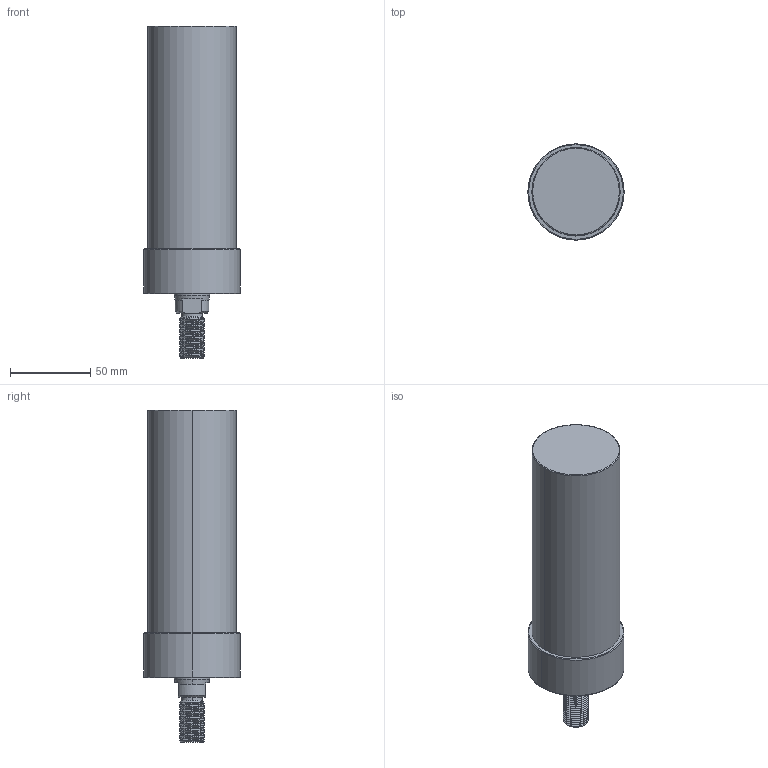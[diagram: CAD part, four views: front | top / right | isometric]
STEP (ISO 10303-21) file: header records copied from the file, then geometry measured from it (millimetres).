
FILE_DESCRIPTION (( 'STEP AP203' ), '1' );
FILE_NAME ('CLLU-055GT-110.STEP', '2020-01-16T01:54:26', ( '' ), ( '' ), 'SwSTEP 2.0', 'SolidWorks 2015', '' );
FILE_SCHEMA (( 'CONFIG_CONTROL_DESIGN' ));
Length unit declared in the file: millimetre
Products named in the file (1): CLLU-055GT-110
Bounding box: 60 x 60 x 207 mm (x, y, z)
Volume: 416705.6 mm3; surface area: 38977.8 mm2
Topology: 1 solids, 1 shells, 102 faces, 254 edges, 155 vertices
Faces by surface type: cylinder 56, cone 26, plane 12, torus 6, bspline 2
Entity records: 4902 total; most frequent: CARTESIAN_POINT 2611, ORIENTED_EDGE 492, DIRECTION 445, EDGE_CURVE 246, AXIS2_PLACEMENT_3D 178, VERTEX_POINT 155, EDGE_LOOP 111, FACE_OUTER_BOUND 102
